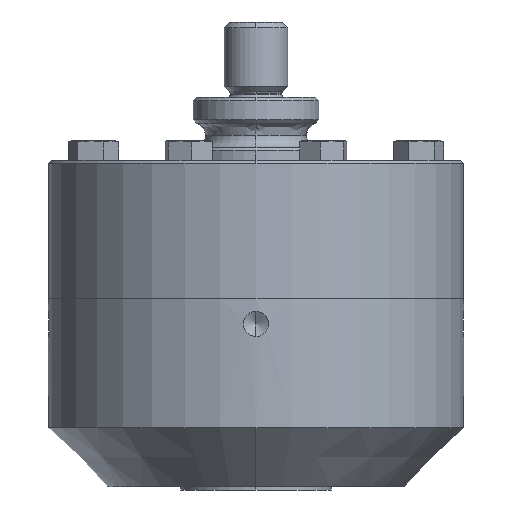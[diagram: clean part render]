
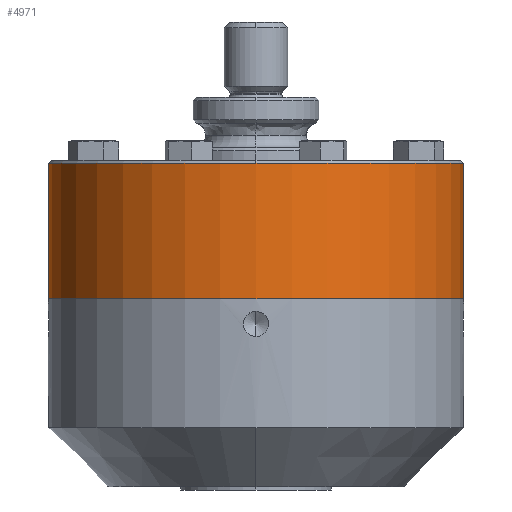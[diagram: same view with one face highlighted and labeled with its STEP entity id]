
A CAD part, left-side view. The second image highlights one B-rep face of the part: STEP entity #4971.
In plain terms, the highlighted cylindrical face has radius 52.375 mm (diameter 104.75 mm), a partial arc.
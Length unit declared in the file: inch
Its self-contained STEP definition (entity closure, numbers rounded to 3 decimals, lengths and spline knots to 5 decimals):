
#72 = CARTESIAN_POINT ( 'NONE',  ( 0., 2.062, 1.345 ) ) ;
#165 = LINE ( 'NONE', #166, #169 ) ;
#166 = CARTESIAN_POINT ( 'NONE',  ( 0., 2.062, 1.345 ) ) ;
#169 = VECTOR ( 'NONE', #170, 39.37008 ) ;
#170 = DIRECTION ( 'NONE',  ( 0., 0., -1. ) ) ;
#493 = CARTESIAN_POINT ( 'NONE',  ( -2.062, 0., 1.345 ) ) ;
#566 = FACE_OUTER_BOUND ( 'NONE', #4708, .T. ) ;
#567 = CYLINDRICAL_SURFACE ( 'NONE', #568, 2.062 ) ;
#568 = AXIS2_PLACEMENT_3D ( 'NONE', #569, #570, #571 ) ;
#569 = CARTESIAN_POINT ( 'NONE',  ( 0., 0., 1.345 ) ) ;
#570 = DIRECTION ( 'NONE',  ( 0., 0., -1. ) ) ;
#571 = DIRECTION ( 'NONE',  ( 0., 1., 0. ) ) ;
#622 = CIRCLE ( 'NONE', #623, 2.062 ) ;
#623 = AXIS2_PLACEMENT_3D ( 'NONE', #624, #625, #626 ) ;
#624 = CARTESIAN_POINT ( 'NONE',  ( 0., 0., 1.345 ) ) ;
#625 = DIRECTION ( 'NONE',  ( 0., 0., 1. ) ) ;
#626 = DIRECTION ( 'NONE',  ( -1., 0., 0. ) ) ;
#656 = EDGE_CURVE ( 'NONE', #6662, #5281, #10116, .T. ) ;
#685 = CARTESIAN_POINT ( 'NONE',  ( 0., 2.062, 0. ) ) ;
#1940 = CARTESIAN_POINT ( 'NONE',  ( 0., -2.062, 0. ) ) ;
#2174 = LINE ( 'NONE', #2175, #2176 ) ;
#2175 = CARTESIAN_POINT ( 'NONE',  ( 0., -2.062, 1.345 ) ) ;
#2176 = VECTOR ( 'NONE', #2183, 39.37008 ) ;
#2183 = DIRECTION ( 'NONE',  ( 0., 0., -1. ) ) ;
#2756 = CIRCLE ( 'NONE', #2757, 2.062 ) ;
#2757 = AXIS2_PLACEMENT_3D ( 'NONE', #2758, #2759, #2760 ) ;
#2758 = CARTESIAN_POINT ( 'NONE',  ( 0., 0., 1.345 ) ) ;
#2759 = DIRECTION ( 'NONE',  ( 0., 0., 1. ) ) ;
#2760 = DIRECTION ( 'NONE',  ( -1., 0., 0. ) ) ;
#3265 = CARTESIAN_POINT ( 'NONE',  ( 0., -2.062, 1.345 ) ) ;
#4081 = VERTEX_POINT ( 'NONE', #72 ) ;
#4323 = EDGE_CURVE ( 'NONE', #4081, #5281, #165, .T. ) ;
#4708 = EDGE_LOOP ( 'NONE', ( #8697, #8593, #8482, #8370, #8268 ) ) ;
#4870 = VERTEX_POINT ( 'NONE', #493 ) ;
#4971 = ADVANCED_FACE ( 'NONE', ( #566 ), #567, .T. ) ;
#5106 = EDGE_CURVE ( 'NONE', #4081, #4870, #622, .T. ) ;
#5281 = VERTEX_POINT ( 'NONE', #685 ) ;
#6662 = VERTEX_POINT ( 'NONE', #1940 ) ;
#6898 = EDGE_CURVE ( 'NONE', #7827, #6662, #2174, .T. ) ;
#7506 = EDGE_CURVE ( 'NONE', #4870, #7827, #2756, .T. ) ;
#7827 = VERTEX_POINT ( 'NONE', #3265 ) ;
#8268 = ORIENTED_EDGE ( 'NONE', *, *, #656, .F. ) ;
#8370 = ORIENTED_EDGE ( 'NONE', *, *, #4323, .T. ) ;
#8482 = ORIENTED_EDGE ( 'NONE', *, *, #5106, .F. ) ;
#8593 = ORIENTED_EDGE ( 'NONE', *, *, #7506, .F. ) ;
#8697 = ORIENTED_EDGE ( 'NONE', *, *, #6898, .F. ) ;
#10116 = CIRCLE ( 'NONE', #10117, 2.062 ) ;
#10117 = AXIS2_PLACEMENT_3D ( 'NONE', #10118, #10119, #10120 ) ;
#10118 = CARTESIAN_POINT ( 'NONE',  ( 0., 0., 0. ) ) ;
#10119 = DIRECTION ( 'NONE',  ( 0., 0., -1. ) ) ;
#10120 = DIRECTION ( 'NONE',  ( 0., 1., 0. ) ) ;
